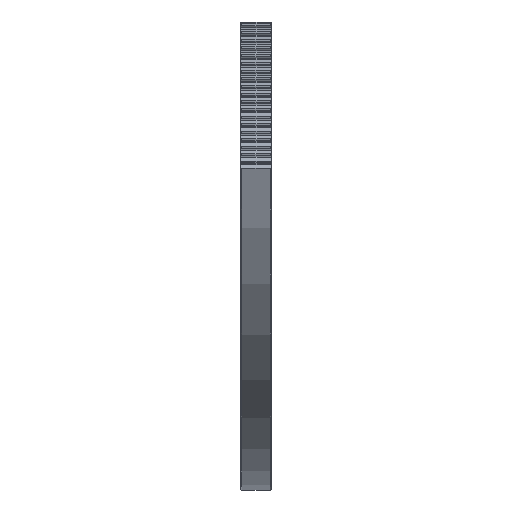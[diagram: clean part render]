
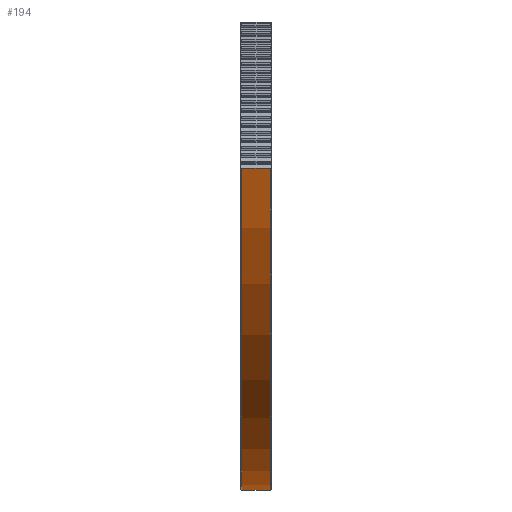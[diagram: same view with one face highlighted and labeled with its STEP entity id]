
A CAD part, left-side view. The second image highlights one B-rep face of the part: STEP entity #194.
In plain terms, the highlighted cylindrical face has radius 241.25 mm (diameter 482.5 mm), a partial arc.
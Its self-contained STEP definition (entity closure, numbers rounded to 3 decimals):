
#194 = ADVANCED_FACE( '', ( #480 ), #481, .T. );
#480 = FACE_OUTER_BOUND( '', #793, .T. );
#481 = CYLINDRICAL_SURFACE( '', #794, 241.25 );
#793 = EDGE_LOOP( '', ( #1905, #1906, #1907, #1908 ) );
#794 = AXIS2_PLACEMENT_3D( '', #1909, #1910, #1911 );
#1905 = ORIENTED_EDGE( '', *, *, #2108, .F. );
#1906 = ORIENTED_EDGE( '', *, *, #2105, .T. );
#1907 = ORIENTED_EDGE( '', *, *, #2366, .T. );
#1908 = ORIENTED_EDGE( '', *, *, #2088, .T. );
#1909 = CARTESIAN_POINT( '', ( 0., 0., 0. ) );
#1910 = DIRECTION( '', ( 0., 1., 0. ) );
#1911 = DIRECTION( '', ( 0., 0., -1. ) );
#2088 = EDGE_CURVE( '', #2498, #2496, #2499, .T. );
#2105 = EDGE_CURVE( '', #2531, #2529, #2532, .F. );
#2108 = EDGE_CURVE( '', #2531, #2496, #2535, .T. );
#2366 = EDGE_CURVE( '', #2529, #2498, #3011, .T. );
#2496 = VERTEX_POINT( '', #3188 );
#2498 = VERTEX_POINT( '', #3193 );
#2499 = LINE( '', #3194, #3195 );
#2529 = VERTEX_POINT( '', #3248 );
#2531 = VERTEX_POINT( '', #3253 );
#2532 = LINE( '', #3254, #3255 );
#2535 = CIRCLE( '', #3261, 241.25 );
#3011 = CIRCLE( '', #4100, 241.25 );
#3188 = CARTESIAN_POINT( '', ( -2.5, 0.5, -241.237 ) );
#3193 = CARTESIAN_POINT( '', ( -2.5, 15., -241.237 ) );
#3194 = CARTESIAN_POINT( '', ( -2.5, 0., -241.237 ) );
#3195 = VECTOR( '', #4275, 1000. );
#3248 = CARTESIAN_POINT( '', ( -228.568, 15., -77.188 ) );
#3253 = CARTESIAN_POINT( '', ( -228.568, 0.5, -77.188 ) );
#3254 = CARTESIAN_POINT( '', ( -228.568, 0., -77.188 ) );
#3255 = VECTOR( '', #4290, 1000. );
#3261 = AXIS2_PLACEMENT_3D( '', #4294, #4295, #4296 );
#4100 = AXIS2_PLACEMENT_3D( '', #4561, #4562, #4563 );
#4275 = DIRECTION( '', ( 0., -1., 0. ) );
#4290 = DIRECTION( '', ( 0., -1., 0. ) );
#4294 = CARTESIAN_POINT( '', ( 0., 0.5, 0. ) );
#4295 = DIRECTION( '', ( 0., -1., 0. ) );
#4296 = DIRECTION( '', ( 0., 0., -1. ) );
#4561 = CARTESIAN_POINT( '', ( 0., 15., 0. ) );
#4562 = DIRECTION( '', ( 0., -1., 0. ) );
#4563 = DIRECTION( '', ( 0., 0., -1. ) );
